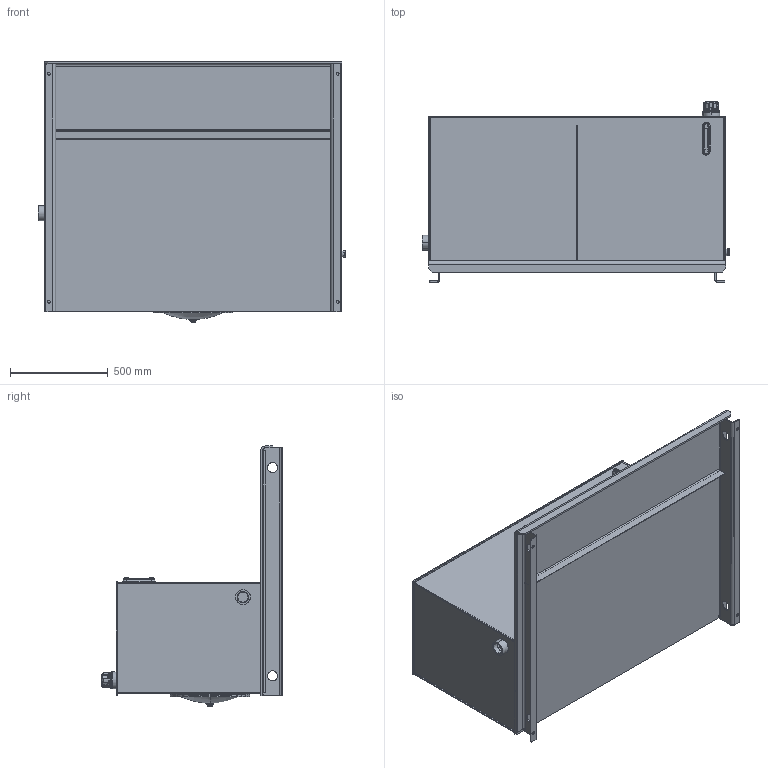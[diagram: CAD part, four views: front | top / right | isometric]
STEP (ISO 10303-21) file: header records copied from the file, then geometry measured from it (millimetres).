
FILE_DESCRIPTION (( 'STEP AP203' ), '1' );
FILE_NAME ('RLC150-FT.STEP', '2015-01-07T16:52:41', ( '' ), ( '' ), 'SwSTEP 2.0', 'SolidWorks 2014', '' );
FILE_SCHEMA (( 'CONFIG_CONTROL_DESIGN' ));
Length unit declared in the file: inch
Products named in the file (1): RLC150-FT
Bounding box: 1574.8 x 927.99 x 1332.63 mm (x, y, z)
Volume: 44270267.8 mm3; surface area: 14388830.9 mm2
Topology: 22 solids, 22 shells, 683 faces, 1605 edges, 965 vertices
Faces by surface type: plane 238, cylinder 234, cone 86, torus 51, bspline 46, sphere 28
Entity records: 21788 total; most frequent: CARTESIAN_POINT 5916, DIRECTION 3455, ORIENTED_EDGE 3186, EDGE_CURVE 1593, AXIS2_PLACEMENT_3D 1356, VERTEX_POINT 965, EDGE_LOOP 772, LINE 743
